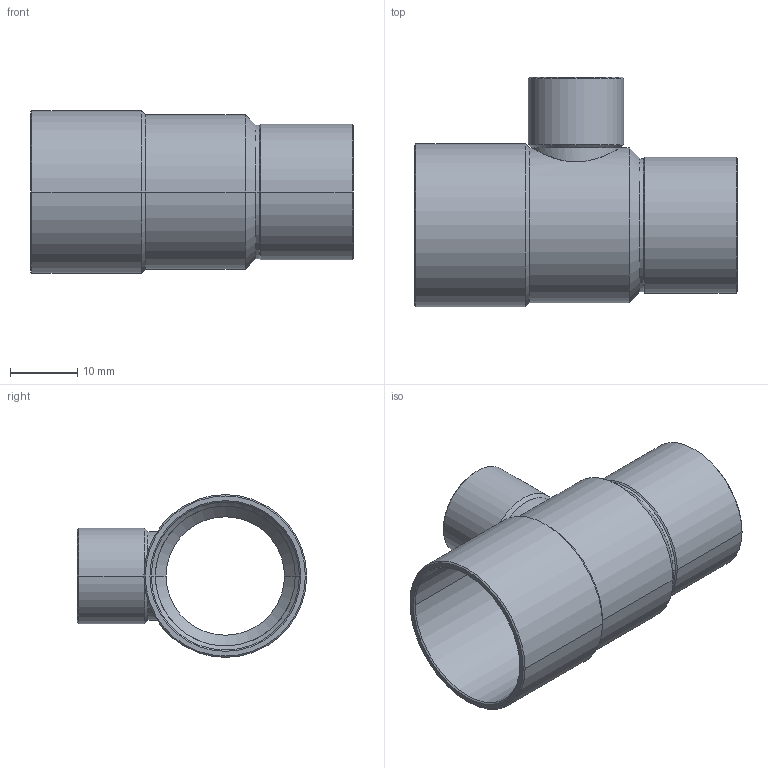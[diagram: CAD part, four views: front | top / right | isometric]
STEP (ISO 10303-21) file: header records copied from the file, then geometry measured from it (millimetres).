
FILE_DESCRIPTION((''),'2;1');
FILE_NAME('P:\Bouwmaten\z-maattekeningen 3D\5000\5130\5130221218.stp','2005-10-26T11:53:39',('Kris'),(''),'Autodesk Inventor 8','Autodesk Inventor 8','');
FILE_SCHEMA(('AUTOMOTIVE_DESIGN { 1 0 10303 214 1 1 1 1 }'));
Length unit declared in the file: millimetre
Products named in the file (1): 5130221218
Bounding box: 48 x 34.1 x 24.2 mm (x, y, z)
Volume: 3964.4 mm3; surface area: 7469.8 mm2
Topology: 1 solids, 1 shells, 57 faces, 129 edges, 73 vertices
Faces by surface type: cone 28, cylinder 24, plane 3, bspline 2
Entity records: 2146 total; most frequent: CARTESIAN_POINT 855, DIRECTION 275, ORIENTED_EDGE 258, EDGE_CURVE 129, AXIS2_PLACEMENT_3D 113, VERTEX_POINT 73, EDGE_LOOP 60, CIRCLE 57
